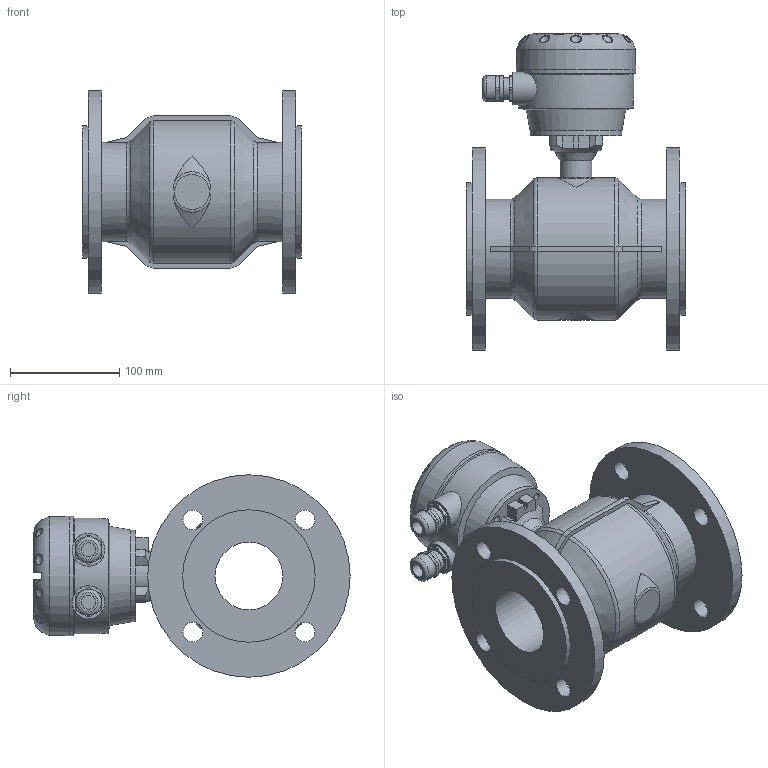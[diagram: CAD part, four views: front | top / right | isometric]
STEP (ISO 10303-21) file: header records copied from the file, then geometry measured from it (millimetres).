
FILE_DESCRIPTION (( 'STEP AP203' ), '1' );
FILE_NAME ('KROHNE_OPTIFLUX_2-4000W-WATERFLUX_3000F_DIN2633_DN65_PN16.STEP', '2011-04-26T11:24:00', ( '' ), ( '' ), 'SwSTEP 2.0', 'SolidWorks 2010', '' );
FILE_SCHEMA (( 'CONFIG_CONTROL_DESIGN' ));
Length unit declared in the file: millimetre
Products named in the file (1): KROHNE_OPTIFLUX_2-4000W-WATERFLUX_3000F_DIN2633_DN65_PN16
Bounding box: 200 x 288.99 x 185 mm (x, y, z)
Volume: 2652719.2 mm3; surface area: 316889.3 mm2
Topology: 14 solids, 14 shells, 383 faces, 944 edges, 610 vertices
Faces by surface type: plane 179, cylinder 94, bspline 53, torus 30, cone 14, sphere 13
Full cylindrical faces by diameter (mm): 4 x4, 6.6 x8, 13 x2, 18 x8, 20 x2, 23.5 x4, 29 x1, 30 x2, 62 x1, 84 x2, 90.6 x2, 109 x1, 121 x2, 185 x2
Entity records: 15592 total; most frequent: CARTESIAN_POINT 7085, ORIENTED_EDGE 1714, DIRECTION 1609, EDGE_CURVE 857, VERTEX_POINT 591, AXIS2_PLACEMENT_3D 591, EDGE_LOOP 516, FACE_OUTER_BOUND 441
